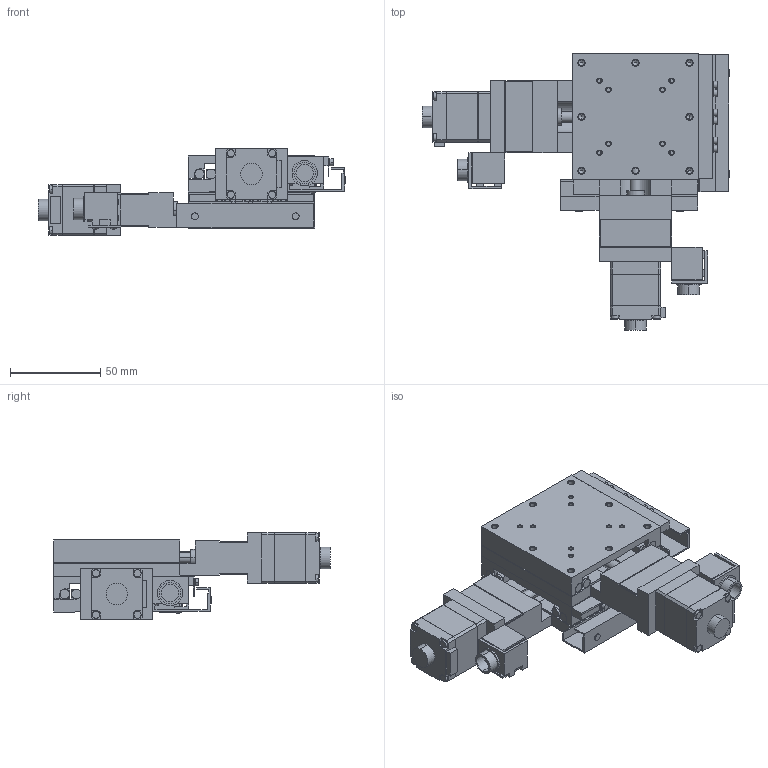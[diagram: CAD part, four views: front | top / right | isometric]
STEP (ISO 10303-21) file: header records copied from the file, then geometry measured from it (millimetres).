
FILE_DESCRIPTION(('STEP AP203'),'1');
FILE_NAME('C:/3D-Trans/3D_PMG715M-L□-T+240122.step','2024-03-14T06:39:55',(' '),(' '),'Spatial InterOp 3D',' ',' ');
FILE_SCHEMA(('CONFIG_CONTROL_DESIGN'));
Length unit declared in the file: millimetre
Products named in the file (12): 1; 2; 3; 4; 5; 6; 7; 8; 9; 10; 11; 12
Bounding box: 170.9 x 153.5 x 48 mm (x, y, z)
Volume: 258415.6 mm3; surface area: 119148.3 mm2
Topology: 12 solids, 12 shells, 1232 faces, 3152 edges, 1986 vertices
Faces by surface type: plane 708, cylinder 364, cone 152, sphere 8
Entity records: 37488 total; most frequent: DIRECTION 6580, CARTESIAN_POINT 6334, ORIENTED_EDGE 6208, EDGE_CURVE 3104, AXIS2_PLACEMENT_3D 2232, LINE 2116, VECTOR 2116, VERTEX_POINT 1986
